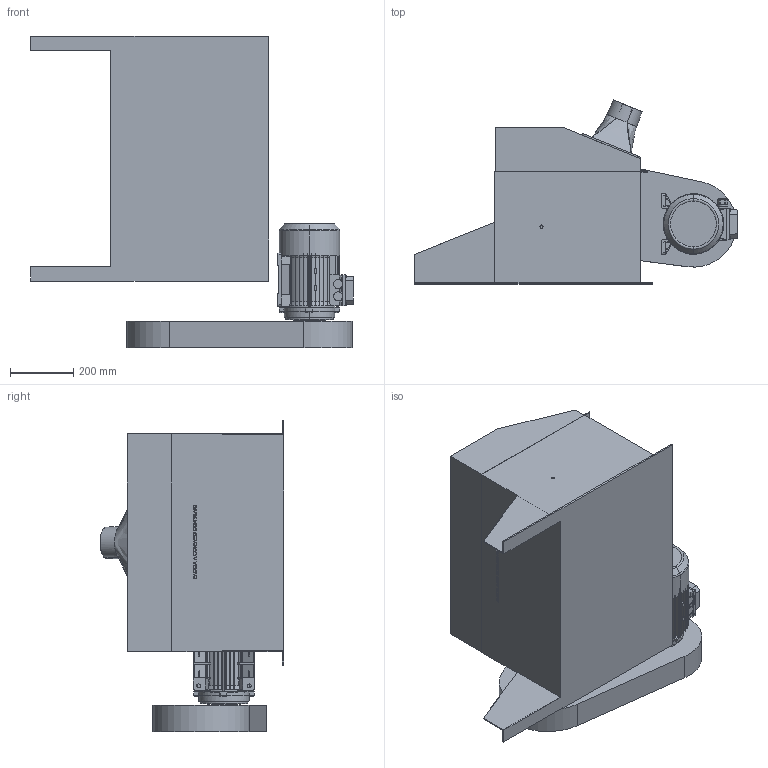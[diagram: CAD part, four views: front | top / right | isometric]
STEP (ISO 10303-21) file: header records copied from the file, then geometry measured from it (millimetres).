
FILE_DESCRIPTION (( 'STEP AP203' ), '1' );
FILE_NAME ('30769.step', '2019-03-14T14:33:02', ( 'PC' ), ( 'Hewlett-Packard Company' ), 'SwSTEP 2.0', 'SolidWorks 2016', '' );
FILE_SCHEMA (( 'CONFIG_CONTROL_DESIGN' ));
Length unit declared in the file: millimetre
Products named in the file (1): 30769
Bounding box: 1017.5 x 579.41 x 982 mm (x, y, z)
Volume: 172046243.3 mm3; surface area: 4043582.4 mm2
Topology: 8 solids, 9 shells, 963 faces, 2502 edges, 1613 vertices
Faces by surface type: plane 655, cylinder 113, cone 103, bspline 86, torus 6
Entity records: 40133 total; most frequent: CARTESIAN_POINT 17125, ORIENTED_EDGE 5000, DIRECTION 4316, EDGE_CURVE 2500, VECTOR 1676, LINE 1676, VERTEX_POINT 1613, AXIS2_PLACEMENT_3D 1320
